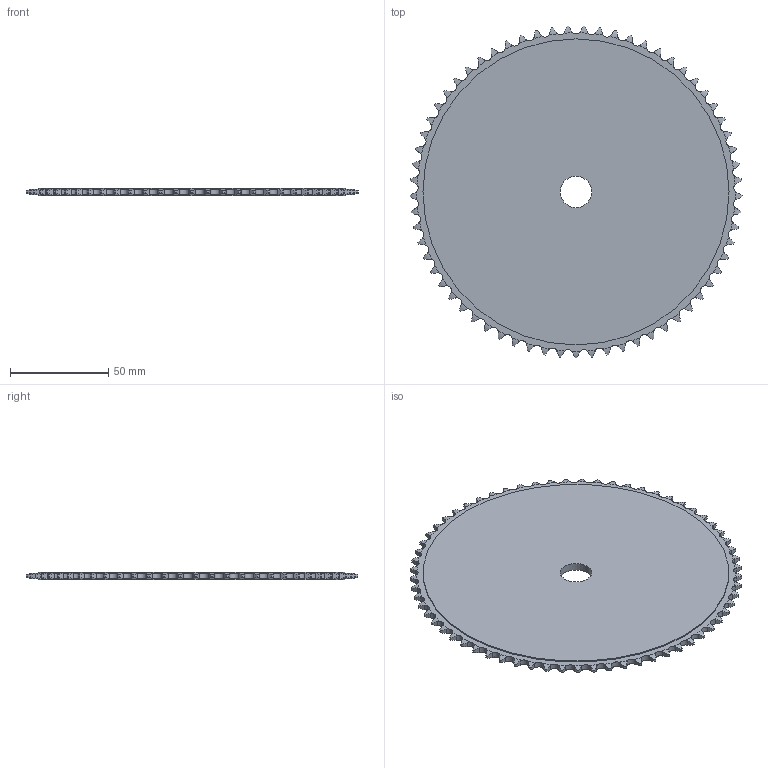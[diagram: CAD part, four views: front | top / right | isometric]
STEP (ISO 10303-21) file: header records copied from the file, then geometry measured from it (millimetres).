
FILE_DESCRIPTION((''),'2;1');
FILE_NAME('500-081-0065_PRT','2021-02-12T',('Brieden'),('Brieden'),'PRO/ENGINEER BY PARAMETRIC TECHNOLOGY CORPORATION, 2010160','PRO/ENGINEER BY PARAMETRIC TECHNOLOGY CORPORATION, 2010160','');
FILE_SCHEMA(('AUTOMOTIVE_DESIGN { 1 0 10303 214 1 1 1 1 }'));
Length unit declared in the file: millimetre
Products named in the file (1): 500-081-0065_PRT
Bounding box: 168.75 x 168.71 x 4 mm (x, y, z)
Volume: 80749.9 mm3; surface area: 44428.8 mm2
Topology: 1 solids, 1 shells, 400 faces, 1188 edges, 792 vertices
Faces by surface type: cylinder 266, torus 130, plane 4
Entity records: 18991 total; most frequent: CARTESIAN_POINT 5262, ORIENTED_EDGE 2376, DIRECTION 1870, PRESENTATION_STYLE_ASSIGNMENT 1189, STYLED_ITEM 1189, CURVE_STYLE 1188, EDGE_CURVE 1188, AXIS2_PLACEMENT_3D 802
